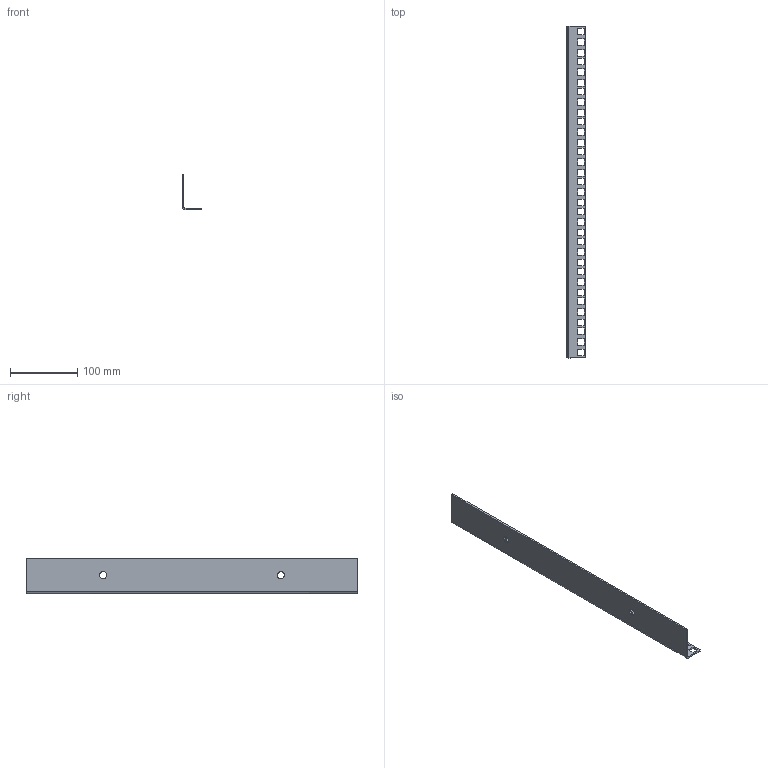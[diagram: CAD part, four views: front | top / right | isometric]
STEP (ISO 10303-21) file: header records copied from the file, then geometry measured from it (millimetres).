
FILE_DESCRIPTION(('700 mm Thru Hole Rack Angle'),'2;1');
FILE_NAME('D:\a00506\e-ra197thln.stp','2003-06-17T10:51:30',( 'Rick Hagglund'),('Hoffman Enclosures Inc.'),'I-DEAS Master Series 9', 'UNIX','Yes');
FILE_SCHEMA(('AUTOMOTIVE_DESIGN { 1 0 10303 214 0 1 1 1 }'));
Length unit declared in the file: inch
Products named in the file (1): 87565371
Bounding box: 28.77 x 492.19 x 53.26 mm (x, y, z)
Volume: 87048.6 mm3; surface area: 76778.4 mm2
Topology: 1 solids, 1 shells, 148 faces, 430 edges, 284 vertices
Faces by surface type: bspline 148
Entity records: 4557 total; most frequent: CARTESIAN_POINT 1785, ORIENTED_EDGE 860, EDGE_CURVE 430, VERTEX_POINT 284, QUASI_UNIFORM_CURVE 282, EDGE_LOOP 218, FACE_OUTER_BOUND 148, ADVANCED_FACE 148
